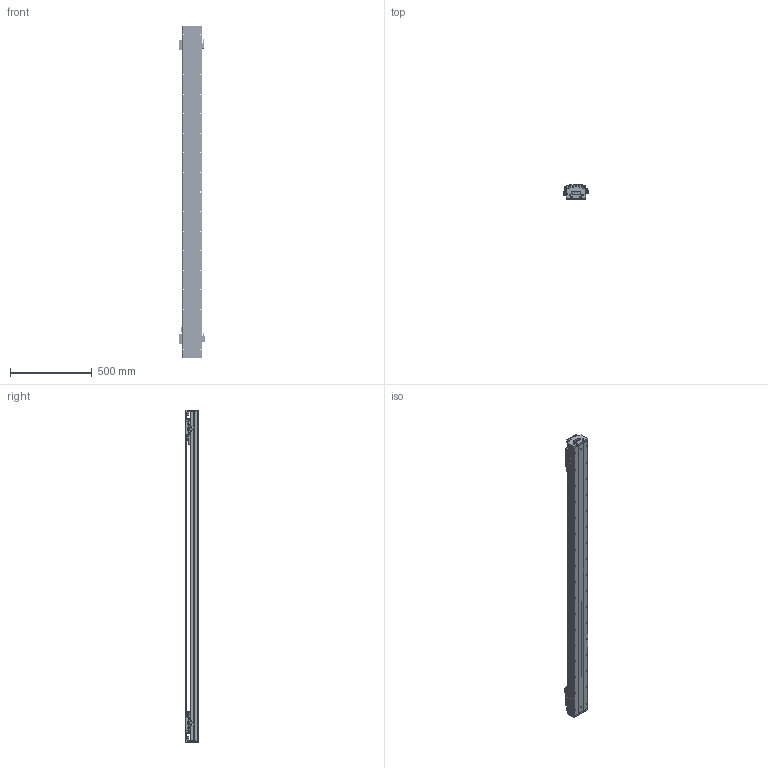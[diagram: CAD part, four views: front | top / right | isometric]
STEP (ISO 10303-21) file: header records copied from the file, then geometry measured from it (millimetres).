
FILE_DESCRIPTION (( 'STEP AP203' ), '1' );
FILE_NAME ('DKW120-2×B15-W060（T1640-L005-0.2）.STEP', '2021-09-29T03:32:24', ( '微软用户' ), ( '微软中国' ), 'SwSTEP 2.0', 'SolidWorks 2018', '' );
FILE_SCHEMA (( 'CONFIG_CONTROL_DESIGN' ));
Length unit declared in the file: millimetre
Products named in the file (27): DKW-KGZ-ZJ-00 中间光电开关支架; RUS嫖掑喜; 06652-0001-004-00 DKW120嶺輸菜輸; DKW-SG-GYP-H-00 嫖萇覜茼え; DKW120-2×B15-W060（T1640-L005-0.2）; Ru2; DKW-HXJ-JY-00 遣喳砎蝶; DKW-HYB-JY-A-00 賑輸揤啣A; RUS嫖掑郪璃; 10940-0001-004-00 120詩湍裔啣; DKW119-HT-C15-00 賑怢啣; DKW119-RU-DTJ-00 RU2黍杅芛盓殤; 砎蝶猾沭; MSB15TS2FC+U92.7-16.35_16.35N_(0_45.85_0_01G-M4); 10980-0001-003-00 嫖萇羲壽嘐隅釱; 12160-0000-003-00 DKW120詩湍嶺輸; BKM015-W060-C1-TP-3; EE_SX674A; 12160-0000-004-00  DKW120詩湍揤輸; B15-W060; DKW-DG-XJ-Z-00 笢潔滅袉砎蝶; DKW120 单轴模组-拉钢带组件; MSB15-DG-U; DKW-GYP-ZJ-00 笢潔嫖萇覜茼え; BKMA01-W060-TRL280; 06652-0001-001-00 DKW120傷啣; DKW120-B15-T300-DZ-00 菁釱
Assembly tree (49 placements, depth 3):
  DKW120-2×B15-W060（T1640-L005-0.2）
    DKW120-B15-T300-DZ-00 菁釱
    B15-W060  x2
      DKW-SG-GYP-H-00 嫖萇覜茼え
      DKW-HYB-JY-A-00 賑輸揤啣A
      DKW119-HT-C15-00 賑怢啣
      MSB15TS2FC+U92.7-16.35_16.35N_(0_45.85_0_01G-M4)
      BKM015-W060-C1-TP-3
    MSB15-DG-U  x2
    DKW120 单轴模组-拉钢带组件
      06652-0001-001-00 DKW120傷啣  x2
      06652-0001-004-00 DKW120嶺輸菜輸  x4
      DKW-HXJ-JY-00 遣喳砎蝶  x4
      10940-0001-004-00 120詩湍裔啣
      砎蝶猾沭  x2
      12160-0000-003-00 DKW120詩湍嶺輸  x2
      12160-0000-004-00  DKW120詩湍揤輸  x2
    BKMA01-W060-TRL280
    RUS嫖掑郪璃
      RUS嫖掑喜
      Ru2
    DKW119-RU-DTJ-00 RU2黍杅芛盓殤  x2
    10980-0001-003-00 嫖萇羲壽嘐隅釱  x2
    EE_SX674A  x5
    DKW-DG-XJ-Z-00 笢潔滅袉砎蝶
    DKW-GYP-ZJ-00 笢潔嫖萇覜茼え
    DKW-KGZ-ZJ-00 中间光电开关支架
    Ru2
Bounding box: 154.09 x 84 x 2036 mm (x, y, z)
Volume: 7297381.7 mm3; surface area: 2889881.1 mm2
Topology: 76 solids, 174 shells, 6948 faces, 18784 edges, 12107 vertices
Faces by surface type: plane 3954, cylinder 1904, cone 556, bspline 534
Entity records: 130451 total; most frequent: CARTESIAN_POINT 46269, ORIENTED_EDGE 17303, DIRECTION 15947, EDGE_CURVE 8692, VERTEX_POINT 5697, AXIS2_PLACEMENT_3D 5328, LINE 5291, VECTOR 5291
